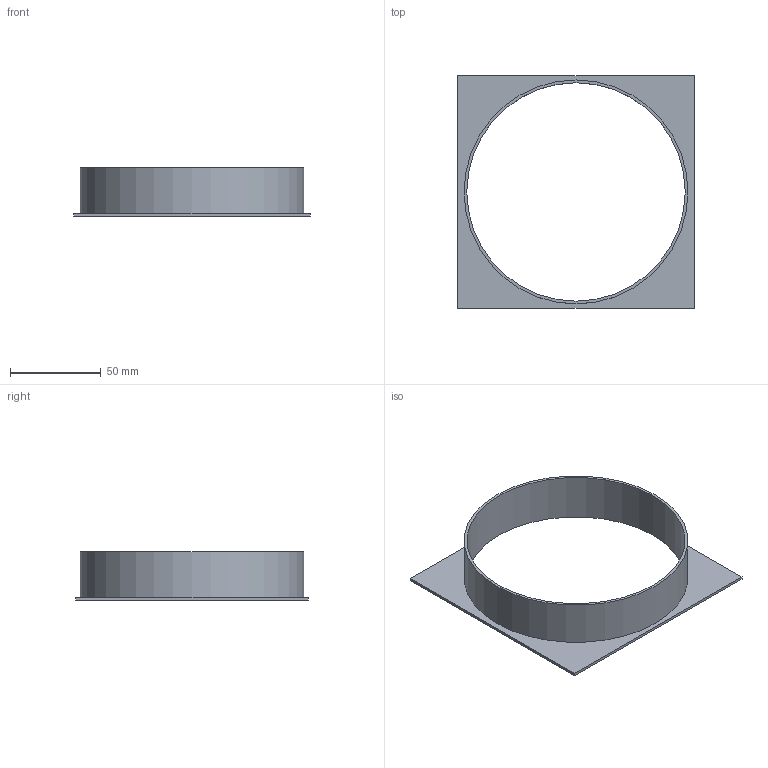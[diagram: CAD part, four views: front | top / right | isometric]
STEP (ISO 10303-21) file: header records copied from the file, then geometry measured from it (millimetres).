
FILE_DESCRIPTION(/* description */ (''),/* implementation_level */ '2;1');
FILE_NAME(/* name */ 'D:/3d/Fusion360/Air Filter Flange I.step',/* time_stamp */ '2019-03-25T17:10:01+00:00',/* author */ ('ianXTAPJ'),/* organization */ (''),/* preprocessor_version */ 'ST-DEVELOPER v17.2',/* originating_system */ 'Autodesk Translation Framework v7.6.0.251',/* authorisation */ '');
FILE_SCHEMA (('AUTOMOTIVE_DESIGN { 1 0 10303 214 3 1 1 }'));
Length unit declared in the file: millimetre
Products named in the file (1): Air Filter Flange
Bounding box: 130 x 128 x 26.5 mm (x, y, z)
Volume: 22309.3 mm3; surface area: 31085.2 mm2
Topology: 1 solids, 1 shells, 9 faces, 21 edges, 15 vertices
Faces by surface type: plane 7, cylinder 2
Full cylindrical faces by diameter (mm): 120 x1, 123 x1
Entity records: 303 total; most frequent: DIRECTION 48, CARTESIAN_POINT 46, ORIENTED_EDGE 42, EDGE_CURVE 21, AXIS2_PLACEMENT_3D 17, VERTEX_POINT 15, LINE 14, VECTOR 14
